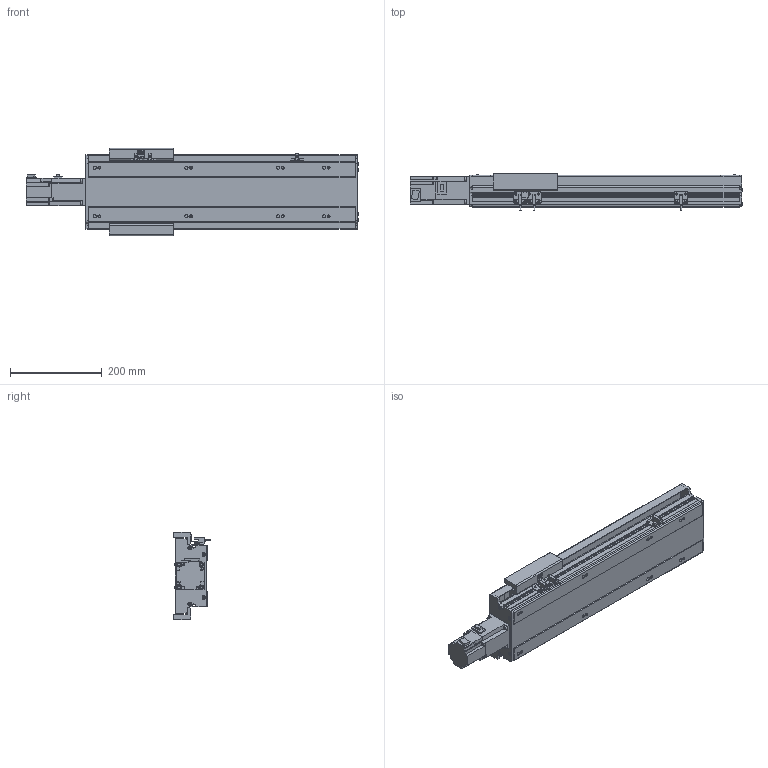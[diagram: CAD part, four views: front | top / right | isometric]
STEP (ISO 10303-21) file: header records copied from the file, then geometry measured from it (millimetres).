
FILE_DESCRIPTION(/* description */ ('STEP AP214'),/* implementation_level */ '2;1');
FILE_NAME(/* name */ 'PSM140-L10-S350-BC-T40-C1-N(0)',/* time_stamp */ '2022-06-13T03:18:44+02:00',/* author */ ('License CC BY-ND 4.0'),/* organization */ ('CADENAS'),/* preprocessor_version */ 'ST-DEVELOPER v18.102',/* originating_system */ 'PARTsolutions',/* authorisation */ ' ');
FILE_SCHEMA (('TECHNICAL_DATA_PACKAGING','AUTOMOTIVE_DESIGN {1 0 10303 214 3 1 1}'));
Length unit declared in the file: millimetre
Products named in the file (7): PSM140-L10-S350-BC-T40-C1-N(0); PSM-Sensor; PSM140-S350-592.5; T40-p1; PSM140_body3; PSM140-S350_body1; PSM140-L10-S350-BC-T40-C1-N(0)_dummy
Assembly tree (10 placements, depth 2):
  PSM140-L10-S350-BC-T40-C1-N(0)
    PSM-Sensor  x3
    PSM140-S350-592.5  x3
    T40-p1
    PSM140_body3
    PSM140-S350_body1
    PSM140-L10-S350-BC-T40-C1-N(0)_dummy
Bounding box: 723.7 x 81.3 x 190 mm (x, y, z)
Volume: 3214273.6 mm3; surface area: 678352.9 mm2
Topology: 9 solids, 9 shells, 928 faces, 2449 edges, 1592 vertices
Faces by surface type: plane 620, cylinder 242, cone 52, torus 14
Full cylindrical faces by diameter (mm): 2.8 x3, 4.5 x12, 4.6 x3, 4.917 x16, 5.5 x7, 5.7 x6, 6 x2, 7 x16, 8 x8, 8.5 x4, 10.5 x8, 14 x1, 50 x1
Entity records: 23583 total; most frequent: CARTESIAN_POINT 4180, DIRECTION 3993, ORIENTED_EDGE 3770, EDGE_CURVE 1885, LINE 1347, VECTOR 1347, AXIS2_PLACEMENT_3D 1323, VERTEX_POINT 1314
